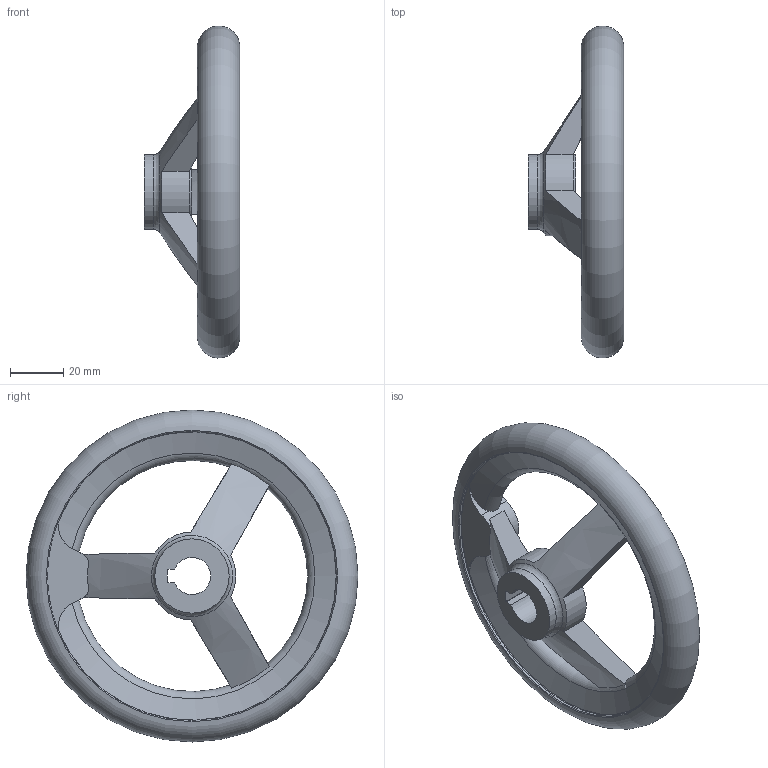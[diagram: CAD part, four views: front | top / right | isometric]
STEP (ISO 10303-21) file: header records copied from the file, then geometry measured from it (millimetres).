
FILE_DESCRIPTION( ( 'STEP AP203' ), '1' );
FILE_NAME( 'C:/Temp/Ganter_Step_05_03_2020/data/1_3/din_950/din_950_k/din_950_k_a/Handwheel DIN 950-AL-125-K14-A.stp', '2020-03-05T10:30:31', ( 'License CC BY-ND 4.0' ), ( 'CADENAS' ), ' ', 'PARTsolutions', ' ' );
FILE_SCHEMA( ( 'CONFIG_CONTROL_DESIGN' ) );
Length unit declared in the file: millimetre
Products named in the file (1): _Handwheel DIN 950-AL-125-K14-A
Bounding box: 36 x 124.99 x 124.99 mm (x, y, z)
Volume: 92566.5 mm3; surface area: 26767.7 mm2
Topology: 1 solids, 1 shells, 42 faces, 122 edges, 78 vertices
Faces by surface type: cylinder 15, plane 13, torus 10, cone 4
Full cylindrical faces by diameter (mm): 28 x2, 109 x2
Entity records: 1650 total; most frequent: CARTESIAN_POINT 594, ORIENTED_EDGE 210, DIRECTION 198, EDGE_CURVE 105, AXIS2_PLACEMENT_3D 87, VERTEX_POINT 75, EDGE_LOOP 59, FACE_OUTER_BOUND 53
